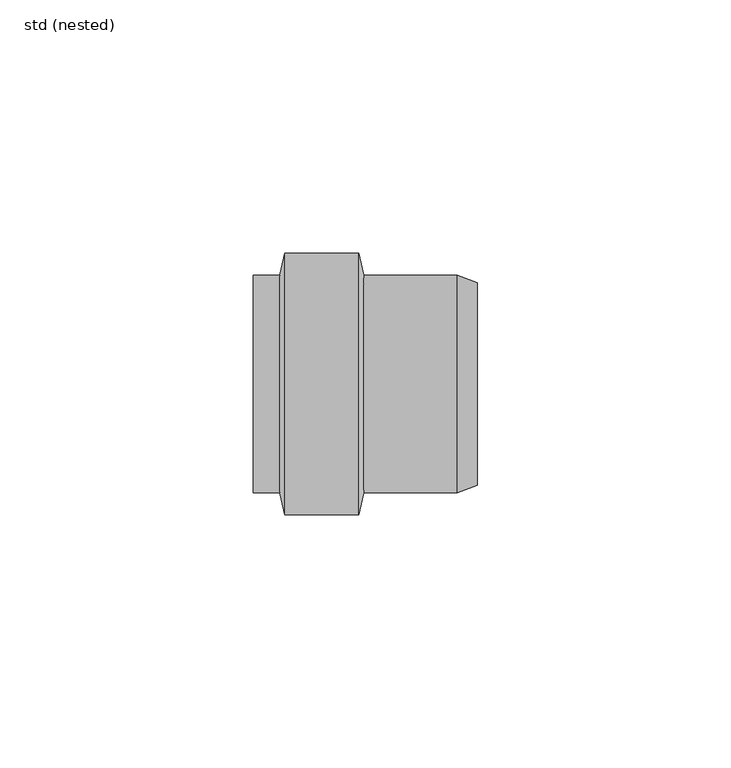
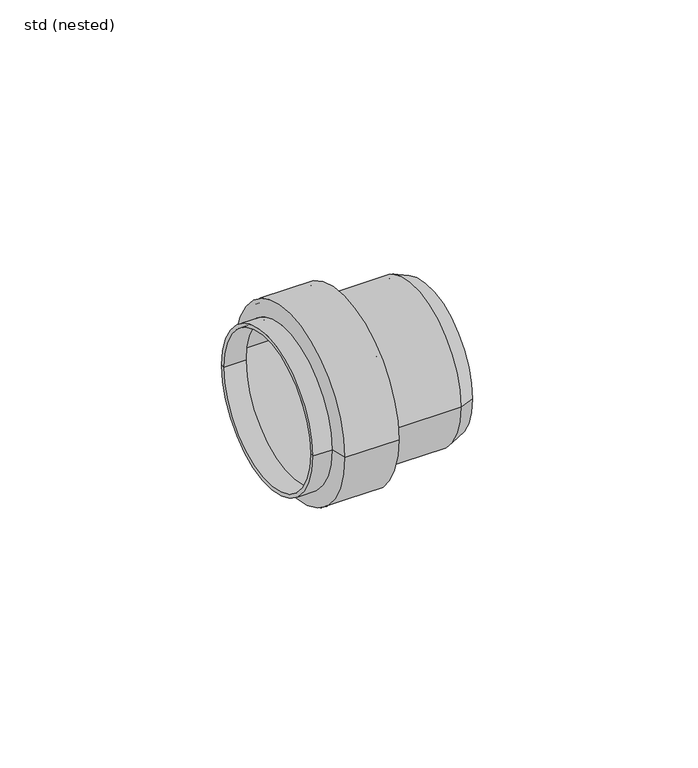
"""IFC4 building model written with IfcOpenShell, lengths in millimetres: pipe fitting geometry, ZZZ_do not use_PIF_ST_UN_ACO pipe socket_ACO : std (nested)."""

from ifc_helpers import new_model, si_unit, frame, origin, place, context, project, spatial, polyline, circle_curve, source, transform, mapped, element, save
from ifc_brep_helpers import plane_surface, cylinder_surface, revolved_surface, advanced_brep


def std_nested_44e87db9(model_context):
    return source(origin(), model_context, "Body", "AdvancedBrep", [
        advanced_brep(
        [(-33.0, -24.75, 0.0), (-33.0, 24.75, 0.0), (-34.0, 20.5, 0.0), (-34.0, -20.5, 0.0), (-20.0, -24.75, 0.0), (-20.0, 24.75, 0.0), (-19.0, -20.5, 0.0), (-19.0, 20.5, 0.0), (0.0, -20.5, 0.0), (0.0, 20.5, 0.0), (3.8, -19.0, 0.0), (3.8, 19.0, 0.0), (4.1671665, -19.9301552, 0.0), (4.1671665, 19.9301552, 0.0), (0.1902264, -21.5, 0.0), (0.1902264, 21.5, 0.0), (-18.2079853, -21.5, 0.0), (-18.2079853, 21.5, 0.0), (-19.2079853, -25.75, 0.0), (-19.2079853, 25.75, 0.0), (-33.7920147, -25.75, 0.0), (-33.7920147, 25.75, 0.0), (-34.7920147, -21.5, 0.0), (-34.7920147, 21.5, 0.0), (-40.0, -21.5, 0.0), (-40.0, 21.5, 0.0), (-40.0, -20.5, 0.0), (-40.0, 20.5, 0.0)],
        [
            (0, 1, circle_curve(frame((-33.0, 0.0, 0.0), z_axis=(1.0, 0.0, 0.0), x_axis=(0.0, 1.0, 0.0)), 24.75)),
            (1, 2),
            (2, 3, circle_curve(frame((-34.0, 0.0, 0.0), z_axis=(-1.0, 0.0, 0.0), x_axis=(0.0, 1.0, 0.0)), 20.5)),
            (3, 0),
            (1, 0, circle_curve(frame((-33.0, 0.0, 0.0), z_axis=(1.0, 0.0, 0.0), x_axis=(0.0, 1.0, 0.0)), 24.75)),
            (3, 2, circle_curve(frame((-34.0, 0.0, 0.0), z_axis=(-1.0, 0.0, 0.0), x_axis=(0.0, 1.0, 0.0)), 20.5)),
            (4, 5, circle_curve(frame((-20.0, 0.0, 0.0), z_axis=(1.0, 0.0, 0.0), x_axis=(0.0, 1.0, 0.0)), 24.75)),
            (5, 1),
            (0, 4),
            (5, 4, circle_curve(frame((-20.0, 0.0, 0.0), z_axis=(1.0, 0.0, 0.0), x_axis=(0.0, 1.0, 0.0)), 24.75)),
            (6, 7, circle_curve(frame((-19.0, 0.0, 0.0), z_axis=(1.0, 0.0, 0.0), x_axis=(0.0, 1.0, 0.0)), 20.5)),
            (7, 5),
            (4, 6),
            (7, 6, circle_curve(frame((-19.0, 0.0, 0.0), z_axis=(1.0, 0.0, 0.0), x_axis=(0.0, 1.0, 0.0)), 20.5)),
            (8, 9, circle_curve(frame((0.0, 0.0, 0.0), z_axis=(1.0, 0.0, 0.0), x_axis=(0.0, 1.0, 0.0)), 20.5)),
            (9, 7),
            (6, 8),
            (9, 8, circle_curve(frame((0.0, 0.0, 0.0), z_axis=(1.0, 0.0, 0.0), x_axis=(0.0, 1.0, 0.0)), 20.5)),
            (10, 11, circle_curve(frame((3.8, 0.0, 0.0), z_axis=(1.0, 0.0, 0.0), x_axis=(0.0, 1.0, 0.0)), 19.0)),
            (11, 9),
            (8, 10),
            (11, 10, circle_curve(frame((3.8, 0.0, 0.0), z_axis=(1.0, 0.0, 0.0), x_axis=(0.0, 1.0, 0.0)), 19.0)),
            (12, 13, circle_curve(frame((4.1671665, 0.0, 0.0), z_axis=(1.0, 0.0, 0.0), x_axis=(0.0, 1.0, 0.0)), 19.9301552)),
            (13, 11),
            (10, 12),
            (13, 12, circle_curve(frame((4.1671665, 0.0, 0.0), z_axis=(1.0, 0.0, 0.0), x_axis=(0.0, 1.0, 0.0)), 19.9301552)),
            (14, 15, circle_curve(frame((0.1902264, 0.0, 0.0), z_axis=(1.0, 0.0, 0.0), x_axis=(0.0, 1.0, 0.0)), 21.5)),
            (15, 13),
            (12, 14),
            (15, 14, circle_curve(frame((0.1902264, 0.0, 0.0), z_axis=(1.0, 0.0, 0.0), x_axis=(0.0, 1.0, 0.0)), 21.5)),
            (16, 17, circle_curve(frame((-18.2079853, 0.0, 0.0), z_axis=(1.0, 0.0, 0.0), x_axis=(0.0, 1.0, 0.0)), 21.5)),
            (17, 15),
            (14, 16),
            (17, 16, circle_curve(frame((-18.2079853, 0.0, 0.0), z_axis=(1.0, 0.0, 0.0), x_axis=(0.0, 1.0, 0.0)), 21.5)),
            (18, 19, circle_curve(frame((-19.2079853, 0.0, 0.0), z_axis=(1.0, 0.0, 0.0), x_axis=(0.0, 1.0, 0.0)), 25.75)),
            (19, 17),
            (16, 18),
            (19, 18, circle_curve(frame((-19.2079853, 0.0, 0.0), z_axis=(1.0, 0.0, 0.0), x_axis=(0.0, 1.0, 0.0)), 25.75)),
            (20, 21, circle_curve(frame((-33.7920147, 0.0, 0.0), z_axis=(1.0, 0.0, 0.0), x_axis=(0.0, 1.0, 0.0)), 25.75)),
            (21, 19),
            (18, 20),
            (21, 20, circle_curve(frame((-33.7920147, 0.0, 0.0), z_axis=(1.0, 0.0, 0.0), x_axis=(0.0, 1.0, 0.0)), 25.75)),
            (22, 23, circle_curve(frame((-34.7920147, 0.0, 0.0), z_axis=(1.0, 0.0, 0.0), x_axis=(0.0, 1.0, 0.0)), 21.5)),
            (23, 21),
            (20, 22),
            (23, 22, circle_curve(frame((-34.7920147, 0.0, 0.0), z_axis=(1.0, 0.0, 0.0), x_axis=(0.0, 1.0, 0.0)), 21.5)),
            (24, 25, circle_curve(frame((-40.0, 0.0, 0.0), z_axis=(1.0, 0.0, 0.0), x_axis=(0.0, 1.0, 0.0)), 21.5)),
            (25, 23),
            (22, 24),
            (25, 24, circle_curve(frame((-40.0, 0.0, 0.0), z_axis=(1.0, 0.0, 0.0), x_axis=(0.0, 1.0, 0.0)), 21.5)),
            (26, 27, circle_curve(frame((-40.0, 0.0, 0.0), z_axis=(1.0, 0.0, 0.0), x_axis=(0.0, 1.0, 0.0)), 20.5)),
            (27, 25),
            (24, 26),
            (27, 26, circle_curve(frame((-40.0, 0.0, 0.0), z_axis=(1.0, 0.0, 0.0), x_axis=(0.0, 1.0, 0.0)), 20.5)),
            (2, 27),
            (26, 3),
        ],
        [
            revolved_surface(polyline([(-34.0, 20.5, 0.0), (-33.0, 24.75, 0.0)]), (-37.2050583, 0.0, 0.0), (-1.0, 0.0, 0.0)),
            revolved_surface(polyline([(-33.0, 24.75, 0.0), (-20.0, 24.75, 0.0)]), (-37.2050583, 0.0, 0.0), (-1.0, 0.0, 0.0)),
            revolved_surface(polyline([(-20.0, 24.75, 0.0), (-19.0, 20.5, 0.0)]), (-37.2050583, 0.0, 0.0), (-1.0, 0.0, 0.0)),
            revolved_surface(polyline([(-19.0, 20.5, 0.0), (0.0, 20.5, 0.0)]), (-37.2050583, 0.0, 0.0), (-1.0, 0.0, 0.0)),
            revolved_surface(polyline([(0.0, 20.5, 0.0), (3.8, 19.0, 0.0)]), (-37.2050583, 0.0, 0.0), (-1.0, 0.0, 0.0)),
            revolved_surface(polyline([(3.8, 19.0, 0.0), (4.1671665, 19.9301552, 0.0)]), (-37.2050583, 0.0, 0.0), (-1.0, 0.0, 0.0)),
            revolved_surface(polyline([(4.1671665, 19.9301552, 0.0), (0.1902264, 21.5, 0.0)]), (-37.2050583, 0.0, 0.0), (-1.0, 0.0, 0.0)),
            cylinder_surface(frame((-37.2050583, 0.0, 0.0), z_axis=(-1.0, 0.0, 0.0), x_axis=(0.0, 1.0, 0.0)), 21.5),
            revolved_surface(polyline([(-18.2079853, 21.5, 0.0), (-19.2079853, 25.75, 0.0)]), (-37.2050583, 0.0, 0.0), (-1.0, 0.0, 0.0)),
            cylinder_surface(frame((-37.2050583, 0.0, 0.0), z_axis=(-1.0, 0.0, 0.0), x_axis=(0.0, 1.0, 0.0)), 25.75),
            revolved_surface(polyline([(-33.7920147, 25.75, 0.0), (-34.7920147, 21.5, 0.0)]), (-37.2050583, 0.0, 0.0), (-1.0, 0.0, 0.0)),
            plane_surface(frame((-40.0, 0.0, 0.0), z_axis=(-1.0, 0.0, 0.0), x_axis=(0.0, 1.0, 0.0))),
            revolved_surface(polyline([(-40.0, 20.5, 0.0), (-34.0, 20.5, 0.0)]), (-37.2050583, 0.0, 0.0), (-1.0, 0.0, 0.0)),
        ],
        [
            (0, [[1, 2, 3, 4]]),
            (0, [[5, -4, 6, -2]]),
            (1, [[7, 8, -1, 9]]),
            (1, [[10, -9, -5, -8]]),
            (2, [[11, 12, -7, 13]]),
            (2, [[14, -13, -10, -12]]),
            (3, [[15, 16, -11, 17]]),
            (3, [[18, -17, -14, -16]]),
            (4, [[19, 20, -15, 21]]),
            (4, [[22, -21, -18, -20]]),
            (5, [[23, 24, -19, 25]]),
            (5, [[26, -25, -22, -24]]),
            (6, [[27, 28, -23, 29]]),
            (6, [[30, -29, -26, -28]]),
            (7, [[31, 32, -27, 33]]),
            (7, [[34, -33, -30, -32]]),
            (8, [[35, 36, -31, 37]]),
            (8, [[38, -37, -34, -36]]),
            (9, [[39, 40, -35, 41]]),
            (9, [[42, -41, -38, -40]]),
            (10, [[43, 44, -39, 45]]),
            (10, [[46, -45, -42, -44]]),
            (7, [[47, 48, -43, 49]]),
            (7, [[50, -49, -46, -48]]),
            (11, [[51, 52, -47, 53]]),
            (11, [[54, -53, -50, -52]]),
            (12, [[-3, 55, -51, 56]]),
            (12, [[-6, -56, -54, -55]]),
        ],
    ),
    ])


if __name__ == "__main__":
    model = new_model("IFC4")
    model_context = context("Model", 3, world=origin())
    ifc_project = project(units=[si_unit("LENGTHUNIT", "METRE", prefix="MILLI")], contexts=[model_context])
    site = spatial("IfcSite", under=ifc_project)
    building = spatial("IfcBuilding", under=site)
    placement = place(None, origin())
    std_nested_shape = std_nested_44e87db9(model_context)
    element("IfcPipeFitting", 1, ObjectType="ZZZ_do not use_PIF_ST_UN_ACO pipe socket_ACO : std (nested)", at=placement, inside=building, context=model_context, shape_type="MappedRepresentation", body=[
        mapped(std_nested_shape, transform((0.0, 0.0, 0.0), x_axis=(1.0, 0.0, 0.0), y_axis=(0.0, 1.0, 0.0), z_axis=(0.0, 0.0, 1.0))),
    ])
    save(model, "model.ifc")
